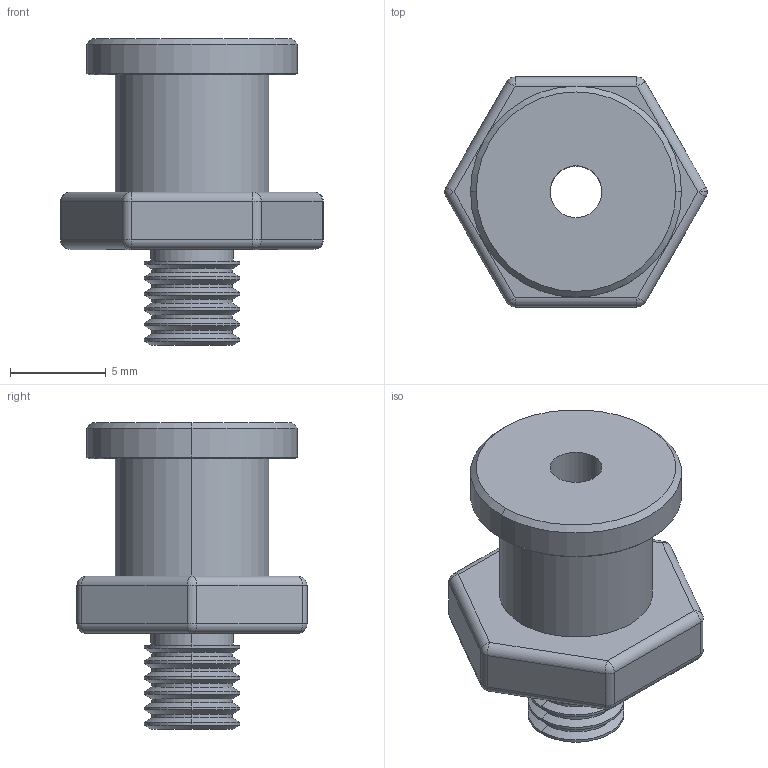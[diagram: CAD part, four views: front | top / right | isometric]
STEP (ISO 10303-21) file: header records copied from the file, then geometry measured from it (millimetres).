
FILE_DESCRIPTION (( 'STEP AP214' ), '1' );
FILE_NAME ('VM27-M5.STEP', '2023-03-07T07:48:21', ( 'Windows User' ), ( 'P R C' ), 'SwSTEP 2.0', 'SolidWorks 2019', '' );
FILE_SCHEMA (( 'AUTOMOTIVE_DESIGN' ));
Length unit declared in the file: millimetre
Products named in the file (1): VM27-M5
Bounding box: 13.7 x 12 x 16 mm (x, y, z)
Volume: 845 mm3; surface area: 891.4 mm2
Topology: 1 solids, 1 shells, 108 faces, 221 edges, 112 vertices
Faces by surface type: cylinder 51, cone 30, sphere 14, plane 13
Entity records: 2749 total; most frequent: DIRECTION 545, CARTESIAN_POINT 434, ORIENTED_EDGE 426, AXIS2_PLACEMENT_3D 223, EDGE_CURVE 213, EDGE_LOOP 115, CIRCLE 114, VERTEX_POINT 112
